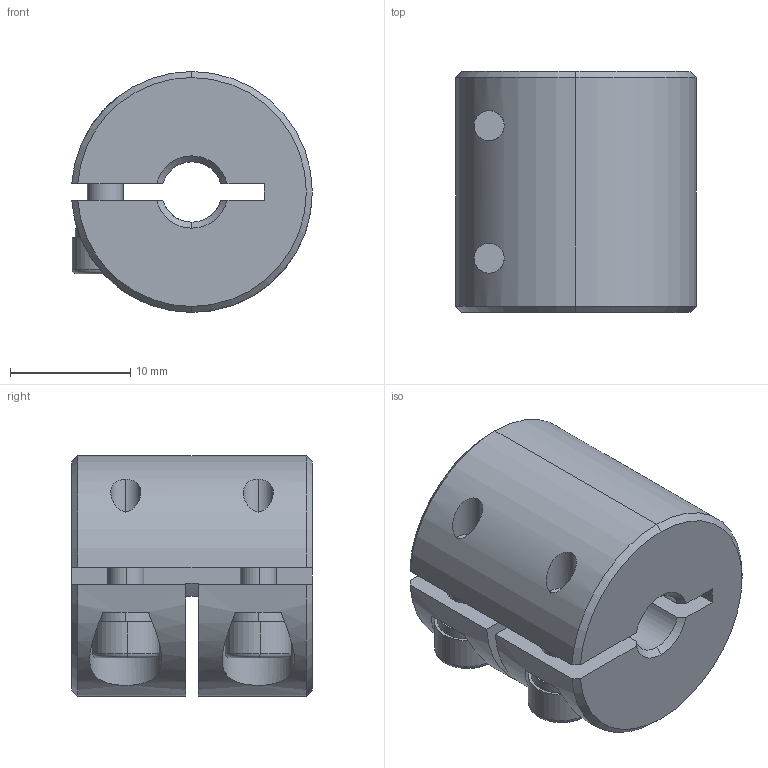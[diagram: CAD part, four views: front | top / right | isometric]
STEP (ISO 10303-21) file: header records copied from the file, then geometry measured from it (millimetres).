
FILE_DESCRIPTION (( 'STEP AP203' ), '1' );
FILE_NAME ('LL-B-D20L20-5-10.STEP', '2021-11-03T05:24:14', ( '' ), ( '' ), 'SwSTEP 2.0', 'SolidWorks 2018', '' );
FILE_SCHEMA (( 'CONFIG_CONTROL_DESIGN' ));
Length unit declared in the file: millimetre
Products named in the file (1): LL-B-D20L20-5-10
Bounding box: 19.98 x 20 x 20 mm (x, y, z)
Volume: 4812.9 mm3; surface area: 3126.5 mm2
Topology: 1 solids, 1 shells, 115 faces, 298 edges, 187 vertices
Faces by surface type: plane 53, cylinder 42, cone 16, torus 4
Entity records: 3764 total; most frequent: CARTESIAN_POINT 831, DIRECTION 625, ORIENTED_EDGE 588, EDGE_CURVE 294, AXIS2_PLACEMENT_3D 241, VERTEX_POINT 187, LINE 143, VECTOR 143
